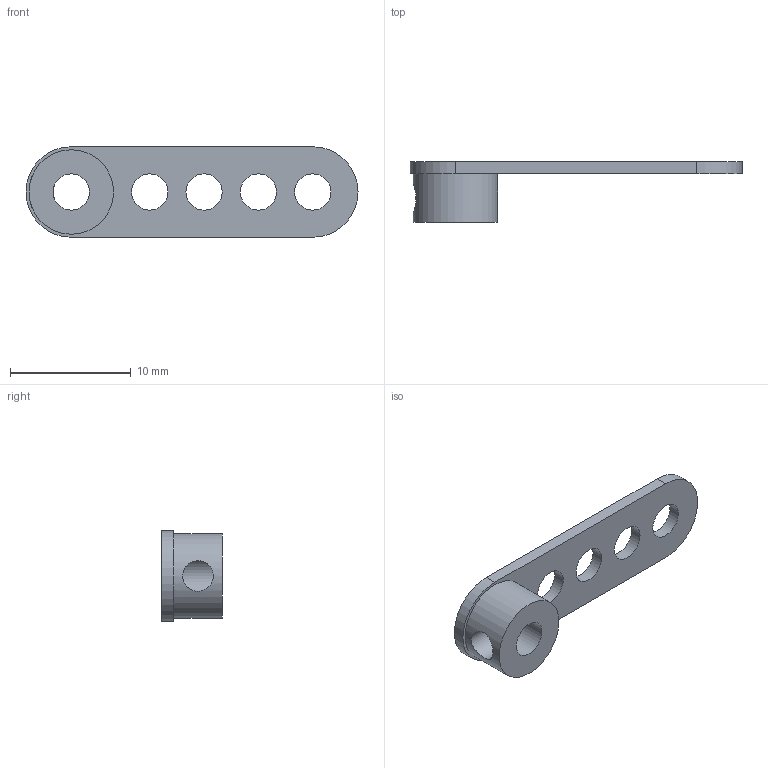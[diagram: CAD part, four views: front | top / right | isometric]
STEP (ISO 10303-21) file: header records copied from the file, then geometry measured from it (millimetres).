
FILE_DESCRIPTION(/* description */ (''),/* implementation_level */ '2;1');
FILE_NAME(/* name */ 'C:/Users/User/Desktop/tamiya crank v1.step',/* time_stamp */ '2020-09-21T13:39:59+08:00',/* author */ (''),/* organization */ (''),/* preprocessor_version */ 'ST-DEVELOPER v18.1',/* originating_system */ 'Autodesk Translation Framework v9.3.0.1241',/* authorisation */ '');
FILE_SCHEMA (('AUTOMOTIVE_DESIGN { 1 0 10303 214 3 1 1 }'));
Length unit declared in the file: millimetre
Products named in the file (1): tamiya crank
Bounding box: 27.5 x 5 x 7.5 mm (x, y, z)
Volume: 274 mm3; surface area: 623.6 mm2
Topology: 2 solids, 2 shells, 16 faces, 42 edges, 28 vertices
Faces by surface type: cylinder 10, plane 6
Full cylindrical faces by diameter (mm): 2.529 x1, 3 x6, 7 x1
Entity records: 638 total; most frequent: CARTESIAN_POINT 166, DIRECTION 88, ORIENTED_EDGE 84, EDGE_CURVE 42, AXIS2_PLACEMENT_3D 35, EDGE_LOOP 28, VERTEX_POINT 28, CIRCLE 18
